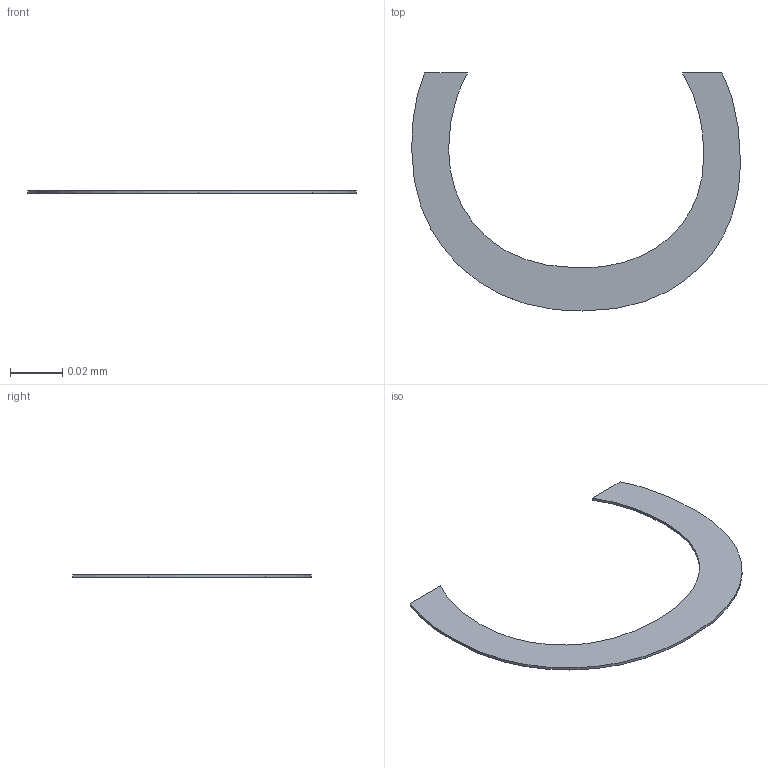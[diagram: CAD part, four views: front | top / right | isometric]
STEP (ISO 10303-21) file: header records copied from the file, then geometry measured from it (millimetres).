
FILE_DESCRIPTION(/* description */ ('STEP AP242 Edition 2','CAx-IF Rec.Pracs.---Representation and Presentation of Product Manufacturing Information (PMI)---4.0---2014-10-13','CAx-IF Rec.Pracs.---3D Tessellated Geometry---0.4---2014-09-14','2;1','CAx-IF Rec.Pracs.---User Defined Attributes---1.5---2016-08-15'),/* implementation_level */ '2;1');
FILE_NAME(/* name */ 'Assembly 1 - SOT-223-3_L6.5-W3.4-P2.30-LS7.0-BR~SOT-223-4P_L6.5-W3.5-H1.6-LS7.0-P2.30~nxQB (6)',/* time_stamp */ '2026-04-02T09:55:22Z',/* author */ (''),/* organization */ (''),/* preprocessor_version */ 'ST-DEVELOPER v20',/* originating_system */ 'ONSHAPE BY PTC INC, 1.212',/* authorisation */ ' ');
FILE_SCHEMA (('AP242_MANAGED_MODEL_BASED_3D_ENGINEERING_MIM_LF { 1 0 10303 442 3 1 4 }'));
Length unit declared in the file: metre
Products named in the file (1): SOT-223-3_L6.5-W3.4-P2.30-LS7.0-BR~SOT-223-4P_L6.5-W3.5-H1.6-LS7.0-P2.
30~nxQB
Bounding box: 0.13 x 0.09 x 0 mm (x, y, z)
Volume: 0 mm3; surface area: 0 mm2
Topology: 1 solids, 1 shells, 16 faces, 42 edges, 28 vertices
Faces by surface type: bspline 12, plane 4
Entity records: 693 total; most frequent: CARTESIAN_POINT 243, ORIENTED_EDGE 84, EDGE_CURVE 42, VERTEX_POINT 28, DIRECTION 28, B_SPLINE_CURVE_WITH_KNOTS 24, LINE 18, VECTOR 18
